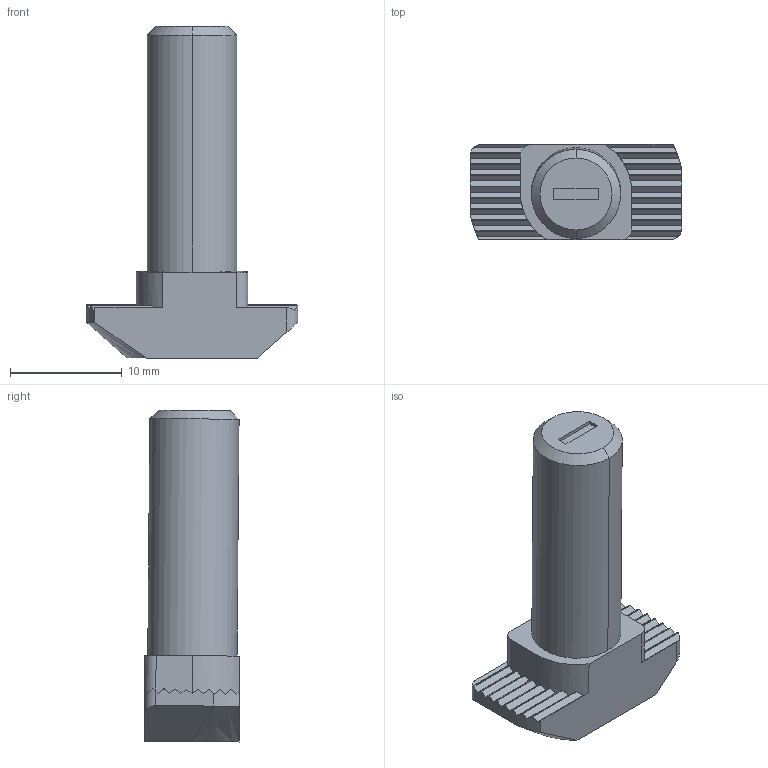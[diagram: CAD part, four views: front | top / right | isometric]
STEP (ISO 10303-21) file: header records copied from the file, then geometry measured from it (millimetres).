
FILE_DESCRIPTION (( 'STEP AP203' ), '1' );
FILE_NAME ('0110HMSM8X25.STEP', '2024-09-06T07:56:55', ( 'Windows-Benutzer' ), ( '' ), 'SwSTEP 2.0', 'SolidWorks 2024', '' );
FILE_SCHEMA (( 'CONFIG_CONTROL_DESIGN' ));
Length unit declared in the file: millimetre
Products named in the file (1): 0110HMSM8X25
Bounding box: 19 x 8.57 x 29.76 mm (x, y, z)
Volume: 1965.6 mm3; surface area: 1173.2 mm2
Topology: 1 solids, 1 shells, 82 faces, 228 edges, 150 vertices
Faces by surface type: plane 52, cylinder 26, cone 2, bspline 2
Entity records: 2853 total; most frequent: CARTESIAN_POINT 825, ORIENTED_EDGE 456, DIRECTION 352, EDGE_CURVE 228, VERTEX_POINT 150, LINE 138, VECTOR 138, AXIS2_PLACEMENT_3D 107
